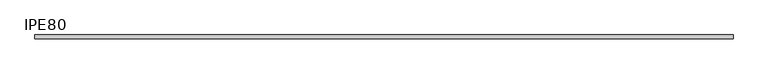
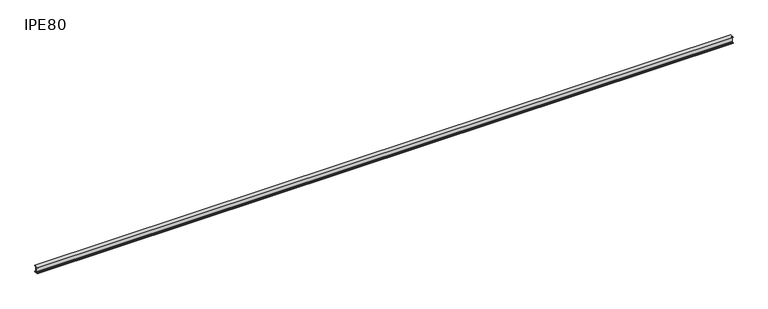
"""IFC4 building model written with IfcOpenShell, lengths in millimetres: beam geometry, IPE-Poutrelles : IPE80."""

from ifc_helpers import new_model, si_unit, point, frame, frame_2d, origin, place, context, project, spatial, polyline, circle_curve, trimmed, segment, composite_curve, outline, extrude, source, transform, mapped, element, save


def ipe80_56a4b9c1(model_context):
    return source(origin(), model_context, "Body", "SweptSolid", [
        extrude(outline(composite_curve([segment(polyline([(23.0, -34.8), (23.0, -40.0), (-23.0, -40.0), (-23.0, -34.8), (-6.9, -34.8)]), True, "CONTINUOUS"), segment(trimmed(circle_curve(frame_2d((-6.9, -29.8)), 5.0), [point((-6.9, -34.8))], [point((-1.9, -29.8))], True, "CARTESIAN"), True, "CONTINUOUS"), segment(polyline([(-1.9, -29.8), (-1.9, 29.8)]), True, "CONTINUOUS"), segment(trimmed(circle_curve(frame_2d((-6.9, 29.8)), 5.0), [point((-1.9, 29.8))], [point((-6.9, 34.8))], True, "CARTESIAN"), True, "CONTINUOUS"), segment(polyline([(-6.9, 34.8), (-23.0, 34.8), (-23.0, 40.0), (23.0, 40.0), (23.0, 34.8), (6.9, 34.8)]), True, "CONTINUOUS"), segment(trimmed(circle_curve(frame_2d((6.9, 29.8)), 5.0), [point((6.9, 34.8))], [point((1.9, 29.8))], True, "CARTESIAN"), True, "CONTINUOUS"), segment(polyline([(1.9, 29.8), (1.9, -29.8)]), True, "CONTINUOUS"), segment(trimmed(circle_curve(frame_2d((6.9, -29.8)), 5.0), [point((1.9, -29.8))], [point((6.9, -34.8))], True, "CARTESIAN"), True, "CONTINUOUS"), segment(polyline([(6.9, -34.8), (23.0, -34.8)]), True, "CONTINUOUS")], self_intersect=False)), frame((-4232.0, 0.0, 0.0), z_axis=(1.0, 0.0, 0.0), x_axis=(0.0, 1.0, 0.0)), (0.0, 0.0, 1.0), 8501.0),
    ])


if __name__ == "__main__":
    model = new_model("IFC4")
    model_context = context("Model", 3, world=origin())
    ifc_project = project(units=[si_unit("LENGTHUNIT", "METRE", prefix="MILLI")], contexts=[model_context])
    site = spatial("IfcSite", under=ifc_project)
    building = spatial("IfcBuilding", under=site)
    placement = place(None, origin())
    ipe80_shape = ipe80_56a4b9c1(model_context)
    element("IfcBeam", 1, ObjectType="IPE-Poutrelles : IPE80", at=placement, inside=building, context=model_context, shape_type="MappedRepresentation", body=[
        mapped(ipe80_shape, transform((0.0, 0.0, 0.0), x_axis=(1.0, 0.0, 0.0), y_axis=(0.0, 1.0, 0.0), z_axis=(0.0, 0.0, 1.0))),
    ])
    save(model, "model.ifc")
